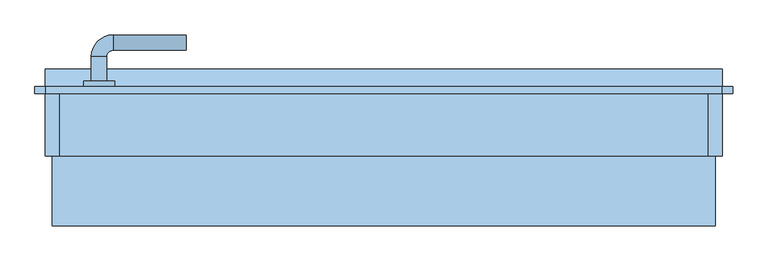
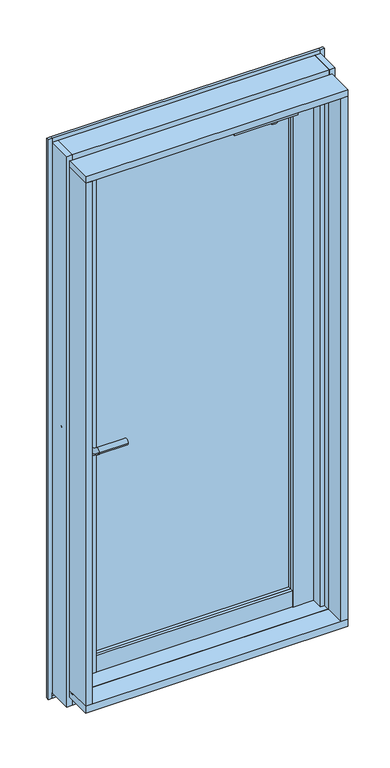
"""IFC4 building model written with IfcOpenShell, lengths in millimetres: window geometry, FNSⅡ100R_非防火_ALC枠_単窓 : 片開き框ドア."""

from ifc_helpers import new_model, si_unit, point, frame, frame_2d, origin, place, context, project, spatial, polyline, circle_curve, ellipse_curve, trimmed, segment, composite_curve, outline, extrude, faceted_brep, source, transform, mapped, element, save
from ifc_brep_helpers import plane_surface, cylinder_surface, revolved_surface, advanced_brep


def window_8a79b492(model_context):
    return source(origin(), model_context, "Body", "SolidModel", [
        extrude(outline(composite_curve([segment(trimmed(circle_curve(frame_2d((269.0, 5.3)), 16.1), [point((285.1, 5.3))], [point((252.9, 5.3))], False, "CARTESIAN"), True, "CONTINUOUS"), segment(trimmed(circle_curve(frame_2d((269.0, 5.3)), 16.1), [point((252.9, 5.3))], [point((285.1, 5.3))], False, "CARTESIAN"), True, "CONTINUOUS")], self_intersect=False)), frame((0.0, 0.0, 2807.0), z_axis=(0.0, 0.0, 1.0), x_axis=(1.0, 0.0, 0.0)), (0.0, 0.0, 1.0), 8.0),
        extrude(outline(polyline([(350.0, 30.8), (350.0, -14.2), (120.0, -14.2), (120.0, 30.8), (350.0, 30.8)])), frame((0.0, 0.0, 2815.0), z_axis=(0.0, 0.0, 1.0), x_axis=(1.0, 0.0, 0.0)), (0.0, 0.0, 1.0), 51.0),
        advanced_brep(
        [(-397.0, 90.0, 1800.0), (-419.0, 90.0, 1800.0), (-419.0, 133.0, 1800.0), (-397.0, 133.0, 1800.0), (-388.0, 142.0, 1800.0), (-388.0, 164.0, 1800.0), (-283.0, 142.0, 1800.0), (-283.0, 164.0, 1800.0)],
        [
            (0, 1, circle_curve(frame((-408.0, 90.0, 1800.0), z_axis=(0.0, -1.0, 0.0), x_axis=(-1.0, 0.0, 0.0)), 11.0)),
            (1, 0, circle_curve(frame((-408.0, 90.0, 1800.0), z_axis=(0.0, -1.0, 0.0), x_axis=(-1.0, 0.0, 0.0)), 11.0)),
            (1, 2),
            (2, 3, circle_curve(frame((-408.0, 133.0, 1800.0), z_axis=(0.0, -1.0, 0.0), x_axis=(-1.0, 0.0, 0.0)), 11.0)),
            (3, 0),
            (4, 3, circle_curve(frame((-388.0, 133.0, 1800.0), z_axis=(0.0, 0.0, 1.0), x_axis=(-1.0, 0.0, 0.0)), 9.0)),
            (2, 5, circle_curve(frame((-388.0, 133.0, 1800.0), z_axis=(0.0, 0.0, -1.0), x_axis=(-1.0, 0.0, 0.0)), 31.0)),
            (5, 4, circle_curve(frame((-388.0, 153.0, 1800.0), z_axis=(-1.0, 0.0, 0.0), x_axis=(0.0, 1.0, 0.0)), 11.0)),
            (6, 7, circle_curve(frame((-283.0, 153.0, 1800.0), z_axis=(1.0, 0.0, 0.0), x_axis=(0.0, 1.0, 0.0)), 11.0)),
            (7, 6, circle_curve(frame((-283.0, 153.0, 1800.0), z_axis=(1.0, 0.0, 0.0), x_axis=(0.0, 1.0, 0.0)), 11.0)),
            (3, 2, circle_curve(frame((-408.0, 133.0, 1800.0), z_axis=(0.0, -1.0, 0.0), x_axis=(-1.0, 0.0, 0.0)), 11.0)),
            (4, 5, circle_curve(frame((-388.0, 153.0, 1800.0), z_axis=(-1.0, 0.0, 0.0), x_axis=(0.0, 1.0, 0.0)), 11.0)),
            (5, 7),
            (6, 4),
        ],
        [
            plane_surface(frame((-408.0, 90.0, 1800.0), z_axis=(0.0, -1.0, 0.0), x_axis=(0.0, 0.0, 1.0))),
            cylinder_surface(frame((-408.0, 90.0, 1800.0), z_axis=(0.0, -1.0, 0.0), x_axis=(-1.0, 0.0, 0.0)), 11.0),
            revolved_surface(trimmed(ellipse_curve(frame((-408.0, 133.0, 1800.0), z_axis=(0.0, -1.0, 0.0), x_axis=(-1.0, 0.0, 0.0)), 11.0, 11.0), [point((-419.0, 133.0, 1800.0))], [point((-397.0, 133.0, 1800.0))], True, "CARTESIAN"), (-388.0, 133.0, 1800.0), (0.0, 0.0, -1.0)),
            plane_surface(frame((-283.0, 153.0, 1800.0), z_axis=(1.0, 0.0, 0.0), x_axis=(0.0, 0.0, 1.0))),
            revolved_surface(trimmed(ellipse_curve(frame((-408.0, 133.0, 1800.0), z_axis=(0.0, -1.0, 0.0), x_axis=(-1.0, 0.0, 0.0)), 11.0, 11.0), [point((-397.0, 133.0, 1800.0))], [point((-419.0, 133.0, 1800.0))], True, "CARTESIAN"), (-388.0, 133.0, 1800.0), (0.0, 0.0, -1.0)),
            cylinder_surface(frame((-388.0, 153.0, 1800.0), z_axis=(-1.0, 0.0, 0.0), x_axis=(0.0, 1.0, 0.0)), 11.0),
        ],
        [
            (0, [[1, 2]]),
            (1, [[-2, 3, 4, 5]]),
            (2, [[6, -4, 7, 8]]),
            (3, [[9, 10]]),
            (1, [[-1, -5, 11, -3]]),
            (4, [[-7, -11, -6, 12]]),
            (5, [[-8, 13, -9, 14]]),
            (5, [[-12, -14, -10, -13]]),
        ],
    ),
        extrude(outline(composite_curve([segment(trimmed(circle_curve(frame_2d((1800.0, -408.0)), 22.0), [point((1800.0, -430.0))], [point((1800.0, -386.0))], False, "CARTESIAN"), True, "CONTINUOUS"), segment(trimmed(circle_curve(frame_2d((1800.0, -408.0)), 22.0), [point((1800.0, -386.0))], [point((1800.0, -430.0))], False, "CARTESIAN"), True, "CONTINUOUS")], self_intersect=False)), frame((0.0, 90.0, 0.0), z_axis=(0.0, 1.0, 0.0), x_axis=(0.0, 0.0, 1.0)), (0.0, 0.0, 1.0), 8.0),
        extrude(outline(composite_curve([segment(trimmed(circle_curve(frame_2d((1800.0, -408.0)), 22.0), [point((1800.0, -386.0))], [point((1800.0, -430.0))], False, "CARTESIAN"), True, "CONTINUOUS"), segment(trimmed(circle_curve(frame_2d((1800.0, -408.0)), 22.0), [point((1800.0, -430.0))], [point((1800.0, -386.0))], False, "CARTESIAN"), True, "CONTINUOUS")], self_intersect=False)), frame((0.0, 21.0, 0.0), z_axis=(0.0, 1.0, 0.0), x_axis=(0.0, 0.0, 1.0)), (0.0, 0.0, 1.0), 8.0),
        advanced_brep(
        [(-397.0, 29.0, 1800.0), (-419.0, 29.0, 1800.0), (-419.0, -14.0, 1800.0), (-397.0, -14.0, 1800.0), (-388.0, -23.0, 1800.0), (-388.0, -45.0, 1800.0), (-283.0, -45.0, 1800.0), (-283.0, -23.0, 1800.0)],
        [
            (0, 1, circle_curve(frame((-408.0, 29.0, 1800.0), z_axis=(0.0, -1.0, 0.0), x_axis=(1.0, 0.0, 0.0)), 11.0)),
            (1, 2),
            (2, 3, circle_curve(frame((-408.0, -14.0, 1800.0), z_axis=(0.0, 1.0, 0.0), x_axis=(1.0, 0.0, 0.0)), 11.0)),
            (3, 0),
            (0, 1, circle_curve(frame((-408.0, 29.0, 1800.0), z_axis=(0.0, 1.0, 0.0), x_axis=(1.0, 0.0, 0.0)), 11.0)),
            (3, 2, circle_curve(frame((-408.0, -14.0, 1800.0), z_axis=(0.0, 1.0, 0.0), x_axis=(1.0, 0.0, 0.0)), 11.0)),
            (4, 3, circle_curve(frame((-388.0, -14.0, 1800.0), z_axis=(0.0, 0.0, -1.0), x_axis=(-1.0, 0.0, 0.0)), 9.0)),
            (2, 5, circle_curve(frame((-388.0, -14.0, 1800.0), z_axis=(0.0, 0.0, 1.0), x_axis=(-1.0, 0.0, 0.0)), 31.0)),
            (5, 4, circle_curve(frame((-388.0, -34.0, 1800.0), z_axis=(-1.0, 0.0, 0.0), x_axis=(0.0, 1.0, 0.0)), 11.0)),
            (4, 5, circle_curve(frame((-388.0, -34.0, 1800.0), z_axis=(-1.0, 0.0, 0.0), x_axis=(0.0, 1.0, 0.0)), 11.0)),
            (6, 7, circle_curve(frame((-283.0, -34.0, 1800.0), z_axis=(1.0, 0.0, 0.0), x_axis=(0.0, 1.0, 0.0)), 11.0)),
            (7, 6, circle_curve(frame((-283.0, -34.0, 1800.0), z_axis=(1.0, 0.0, 0.0), x_axis=(0.0, 1.0, 0.0)), 11.0)),
            (5, 6),
            (7, 4),
        ],
        [
            cylinder_surface(frame((-408.0, 29.0, 1800.0), z_axis=(0.0, 1.0, 0.0), x_axis=(1.0, 0.0, 0.0)), 11.0),
            plane_surface(frame((-408.0, 29.0, 1800.0), z_axis=(0.0, 1.0, 0.0), x_axis=(0.0, 0.0, 1.0))),
            revolved_surface(trimmed(ellipse_curve(frame((-408.0, -14.0, 1800.0), z_axis=(0.0, 1.0, 0.0), x_axis=(1.0, 0.0, 0.0)), 11.0, 11.0), [point((-419.0, -14.0, 1800.0))], [point((-397.0, -14.0, 1800.0))], True, "CARTESIAN"), (-388.0, -14.0, 1800.0), (0.0, 0.0, 1.0)),
            revolved_surface(trimmed(ellipse_curve(frame((-408.0, -14.0, 1800.0), z_axis=(0.0, 1.0, 0.0), x_axis=(1.0, 0.0, 0.0)), 11.0, 11.0), [point((-397.0, -14.0, 1800.0))], [point((-419.0, -14.0, 1800.0))], True, "CARTESIAN"), (-388.0, -14.0, 1800.0), (0.0, 0.0, 1.0)),
            plane_surface(frame((-283.0, -34.0, 1800.0), z_axis=(1.0, 0.0, 0.0), x_axis=(0.0, 0.0, 1.0))),
            cylinder_surface(frame((-388.0, -34.0, 1800.0), z_axis=(-1.0, 0.0, 0.0), x_axis=(0.0, 1.0, 0.0)), 11.0),
        ],
        [
            (0, [[1, 2, 3, 4]]),
            (1, [[-1, 5]]),
            (0, [[-5, -4, 6, -2]]),
            (2, [[7, -3, 8, 9]]),
            (3, [[-8, -6, -7, 10]]),
            (4, [[11, 12]]),
            (5, [[-9, 13, -12, 14]]),
            (5, [[-10, -14, -11, -13]]),
        ],
    ),
        extrude(outline(polyline([(-356.0, 60.0), (356.0, 60.0), (356.0, 54.0), (-356.0, 54.0), (-356.0, 60.0)])), frame((0.0, 0.0, 967.0), z_axis=(0.0, 0.0, 1.0), x_axis=(1.0, 0.0, 0.0)), (0.0, 0.0, 1.0), 1822.0),
        extrude(outline(polyline([(-356.0, 78.0), (356.0, 78.0), (356.0, 72.0), (-356.0, 72.0), (-356.0, 78.0)])), frame((0.0, 0.0, 967.0), z_axis=(0.0, 0.0, 1.0), x_axis=(1.0, 0.0, 0.0)), (0.0, 0.0, 1.0), 1822.0),
        extrude(outline(polyline([(356.0, 29.0), (356.0, 41.0), (431.0, 41.0), (431.0, 29.0), (356.0, 29.0)])), frame((0.0, 0.0, 904.0), z_axis=(0.0, 0.0, 1.0), x_axis=(1.0, 0.0, 0.0)), (0.0, 0.0, 1.0), 1973.0),
        extrude(outline(polyline([(-356.0, 29.0), (-431.0, 29.0), (-431.0, 41.0), (-356.0, 41.0), (-356.0, 29.0)])), frame((0.0, 0.0, 904.0), z_axis=(0.0, 0.0, 1.0), x_axis=(1.0, 0.0, 0.0)), (0.0, 0.0, 1.0), 1973.0),
        extrude(outline(polyline([(-446.0, 90.0), (-356.0, 90.0), (-356.0, 41.0), (-446.0, 41.0), (-446.0, 90.0)])), frame((0.0, 0.0, 862.0), z_axis=(0.0, 0.0, 1.0), x_axis=(1.0, 0.0, 0.0)), (0.0, 0.0, 1.0), 2032.0),
        extrude(outline(polyline([(446.0, 90.0), (446.0, 41.0), (356.0, 41.0), (356.0, 90.0), (446.0, 90.0)])), frame((0.0, 0.0, 862.0), z_axis=(0.0, 0.0, 1.0), x_axis=(1.0, 0.0, 0.0)), (0.0, 0.0, 1.0), 2032.0),
        extrude(outline(polyline([(356.0, 41.0), (356.0, 30.8), (-356.0, 30.8), (-356.0, 41.0), (356.0, 41.0)])), frame((0.0, 0.0, 904.0), z_axis=(0.0, 0.0, 1.0), x_axis=(1.0, 0.0, 0.0)), (0.0, 0.0, 1.0), 63.0),
        extrude(outline(polyline([(356.0, 90.0), (356.0, 41.0), (-356.0, 41.0), (-356.0, 90.0), (356.0, 90.0)])), frame((0.0, 0.0, 862.0), z_axis=(0.0, 0.0, 1.0), x_axis=(1.0, 0.0, 0.0)), (0.0, 0.0, 1.0), 105.0),
        extrude(outline(polyline([(356.0, 41.0), (356.0, 30.8), (-356.0, 30.8), (-356.0, 41.0), (356.0, 41.0)])), frame((0.0, 0.0, 2789.0), z_axis=(0.0, 0.0, 1.0), x_axis=(1.0, 0.0, 0.0)), (0.0, 0.0, 1.0), 88.0),
        extrude(outline(polyline([(356.0, 90.0), (356.0, 41.0), (-356.0, 41.0), (-356.0, 90.0), (356.0, 90.0)])), frame((0.0, 0.0, 2789.0), z_axis=(0.0, 0.0, 1.0), x_axis=(1.0, 0.0, 0.0)), (0.0, 0.0, 1.0), 105.0),
        faceted_brep([(-485.0, 90.0, 2945.0), (-485.0, -10.0, 2945.0), (-465.0, -10.0, 2945.0), (-465.0, 90.0, 2945.0), (-485.0, 90.0, 840.0), (-465.0, 90.0, 840.0), (-465.0, -10.0, 840.0), (-485.0, -10.0, 840.0), (-465.0, 90.0, 850.0), (-465.0, 33.0, 850.0), (-465.0, 33.0, 2900.0), (-465.0, 90.0, 2900.0), (-450.0, 90.0, 2900.0), (-450.0, 90.0, 850.0), (-436.3, 33.0, 2900.0), (-436.3, 38.0, 2900.0), (-450.0, 38.0, 2900.0), (-436.3, 38.0, 850.0), (-450.0, 38.0, 850.0), (-436.3, 33.0, 850.0)], [[[0, 1, 2, 3]], [[4, 5, 6, 7]], [[1, 0, 4, 7]], [[2, 1, 7, 6]], [[3, 2, 6, 5, 8, 9, 10, 11]], [[0, 3, 11, 12, 13, 8, 5, 4]], [[12, 11, 10, 14, 15, 16]], [[16, 15, 17, 18]], [[13, 18, 17, 19, 9, 8]], [[14, 10, 9, 19]], [[12, 16, 18, 13]], [[15, 14, 19, 17]]]),
        faceted_brep([(465.0, -10.0, 2945.0), (485.0, -10.0, 2945.0), (485.0, 90.0, 2945.0), (465.0, 90.0, 2945.0), (465.0, -10.0, 840.0), (465.0, 90.0, 840.0), (485.0, 90.0, 840.0), (485.0, -10.0, 840.0), (450.0, 90.0, 2900.0), (450.0, 38.0, 2900.0), (436.3, 38.0, 2900.0), (436.3, 33.0, 2900.0), (465.0, 33.0, 2900.0), (465.0, 90.0, 2900.0), (465.0, 90.0, 850.0), (450.0, 90.0, 850.0), (465.0, 33.0, 850.0), (450.0, 38.0, 850.0), (436.3, 38.0, 850.0), (436.3, 33.0, 850.0)], [[[0, 1, 2, 3]], [[4, 5, 6, 7]], [[8, 9, 10, 11, 12, 13]], [[3, 2, 6, 5, 14, 15, 8, 13]], [[0, 3, 13, 12, 16, 14, 5, 4]], [[9, 8, 15, 17]], [[10, 9, 17, 18]], [[11, 10, 18, 19]], [[12, 11, 19, 16]], [[15, 14, 16, 19, 18, 17]], [[1, 0, 4, 7]], [[2, 1, 7, 6]]]),
        extrude(outline(polyline([(-465.0, -10.0), (-465.0, 33.0), (-435.0, 33.0), (-435.0, -7.5), (-450.0, -7.5), (-450.0, -30.0), (-453.0, -30.0), (-453.0, -10.0), (-465.0, -10.0)])), frame((0.0, 0.0, 900.0), z_axis=(0.0, 0.0, 1.0), x_axis=(1.0, 0.0, 0.0)), (0.0, 0.0, 1.0), 2003.0),
        extrude(outline(polyline([(465.0, -10.0), (453.0, -10.0), (453.0, -30.0), (450.0, -30.0), (450.0, -7.5), (435.0, -7.5), (435.0, 33.0), (465.0, 33.0), (465.0, -10.0)])), frame((0.0, 0.0, 900.0), z_axis=(0.0, 0.0, 1.0), x_axis=(1.0, 0.0, 0.0)), (0.0, 0.0, 1.0), 2003.0),
        extrude(outline(polyline([(-10.0, 884.0), (-10.0, 897.0), (-30.0, 897.0), (-30.0, 900.0), (37.0, 900.0), (37.0, 884.0), (-10.0, 884.0)])), frame((-453.0, 0.0, 0.0), z_axis=(1.0, 0.0, 0.0), x_axis=(0.0, 1.0, 0.0)), (0.0, 0.0, 1.0), 906.0),
        extrude(outline(polyline([(90.0, 840.0), (-10.0, 840.0), (-10.0, 884.0), (37.0, 884.0), (37.0, 850.0), (90.0, 850.0), (90.0, 840.0)])), frame((-465.0, 0.0, 0.0), z_axis=(1.0, 0.0, 0.0), x_axis=(0.0, 1.0, 0.0)), (0.0, 0.0, 1.0), 930.0),
        extrude(outline(polyline([(32.7, 2884.0), (-4.0, 2884.0), (-4.0, 2900.0), (-30.0, 2900.0), (-30.0, 2903.0), (-10.0, 2903.0), (-10.0, 2914.5), (32.7, 2914.5), (32.7, 2884.0)])), frame((-450.0, 0.0, 0.0), z_axis=(1.0, 0.0, 0.0), x_axis=(0.0, 1.0, 0.0)), (0.0, 0.0, 1.0), 900.0),
        extrude(outline(polyline([(90.0, 2900.0), (38.0, 2900.0), (38.0, 2884.0), (32.7, 2884.0), (32.7, 2914.5), (-10.0, 2914.5), (-10.0, 2945.0), (90.0, 2945.0), (90.0, 2900.0)])), frame((-465.0, 0.0, 0.0), z_axis=(1.0, 0.0, 0.0), x_axis=(0.0, 1.0, 0.0)), (0.0, 0.0, 1.0), 930.0),
        extrude(outline(polyline([(-110.0, 900.0), (-30.0, 900.0), (-30.0, 897.0), (-10.0, 897.0), (-10.0, 875.0), (-110.0, 875.0), (-110.0, 900.0)])), frame((-475.0, 0.0, 0.0), z_axis=(1.0, 0.0, 0.0), x_axis=(0.0, 1.0, 0.0)), (0.0, 0.0, 1.0), 950.0),
        extrude(outline(polyline([(-485.0, 80.0), (-485.0, 90.0), (485.0, 90.0), (485.0, 80.0), (-485.0, 80.0)])), frame((0.0, 0.0, 830.0), z_axis=(0.0, 0.0, 1.0), x_axis=(1.0, 0.0, 0.0)), (0.0, 0.0, 1.0), 10.0),
        extrude(outline(polyline([(100.0, 807.0), (100.0, 820.0), (80.0, 820.0), (80.0, 830.0), (90.0, 830.0), (115.0, 825.0), (115.0, 807.0), (100.0, 807.0)])), frame((-485.0, 0.0, 0.0), z_axis=(1.0, 0.0, 0.0), x_axis=(0.0, 1.0, 0.0)), (0.0, 0.0, 1.0), 970.0),
        extrude(outline(polyline([(475.0, -10.0), (475.0, -110.0), (450.0, -110.0), (450.0, -30.0), (453.0, -30.0), (453.0, -10.0), (475.0, -10.0)])), frame((0.0, 0.0, 900.0), z_axis=(0.0, 0.0, 1.0), x_axis=(1.0, 0.0, 0.0)), (0.0, 0.0, 1.0), 2000.0),
        extrude(outline(polyline([(-453.0, -10.0), (-453.0, -30.0), (-450.0, -30.0), (-450.0, -110.0), (-475.0, -110.0), (-475.0, -10.0), (-453.0, -10.0)])), frame((0.0, 0.0, 900.0), z_axis=(0.0, 0.0, 1.0), x_axis=(1.0, 0.0, 0.0)), (0.0, 0.0, 1.0), 2000.0),
        extrude(outline(polyline([(-500.0, 90.0), (-485.0, 90.0), (-485.0, 80.0), (-500.0, 80.0), (-500.0, 90.0)])), frame((0.0, 0.0, 820.0), z_axis=(0.0, 0.0, 1.0), x_axis=(1.0, 0.0, 0.0)), (0.0, 0.0, 1.0), 2140.0),
        extrude(outline(polyline([(500.0, 90.0), (500.0, 80.0), (485.0, 80.0), (485.0, 90.0), (500.0, 90.0)])), frame((0.0, 0.0, 820.0), z_axis=(0.0, 0.0, 1.0), x_axis=(1.0, 0.0, 0.0)), (0.0, 0.0, 1.0), 2140.0),
        extrude(outline(polyline([(-110.0, 2925.0), (-10.0, 2925.0), (-10.0, 2903.0), (-30.0, 2903.0), (-30.0, 2900.0), (-110.0, 2900.0), (-110.0, 2925.0)])), frame((-475.0, 0.0, 0.0), z_axis=(1.0, 0.0, 0.0), x_axis=(0.0, 1.0, 0.0)), (0.0, 0.0, 1.0), 950.0),
        extrude(outline(polyline([(-485.0, 80.0), (-485.0, 90.0), (485.0, 90.0), (485.0, 80.0), (-485.0, 80.0)])), frame((0.0, 0.0, 2945.0), z_axis=(0.0, 0.0, 1.0), x_axis=(1.0, 0.0, 0.0)), (0.0, 0.0, 1.0), 15.0),
    ])


if __name__ == "__main__":
    model = new_model("IFC4")
    model_context = context("Model", 3, world=origin())
    ifc_project = project(units=[si_unit("LENGTHUNIT", "METRE", prefix="MILLI")], contexts=[model_context])
    site = spatial("IfcSite", under=ifc_project)
    building = spatial("IfcBuilding", under=site)
    placement = place(None, origin())
    window_shape = window_8a79b492(model_context)
    element("IfcWindow", 1, ObjectType="FNSⅡ100R_非防火_ALC枠_単窓 : 片開き框ドア", at=placement, inside=building, context=model_context, shape_type="MappedRepresentation", body=[
        mapped(window_shape, transform((0.0, 0.0, 0.0), x_axis=(1.0, 0.0, 0.0), y_axis=(0.0, 1.0, 0.0), z_axis=(0.0, 0.0, 1.0))),
    ])
    save(model, "model.ifc")
